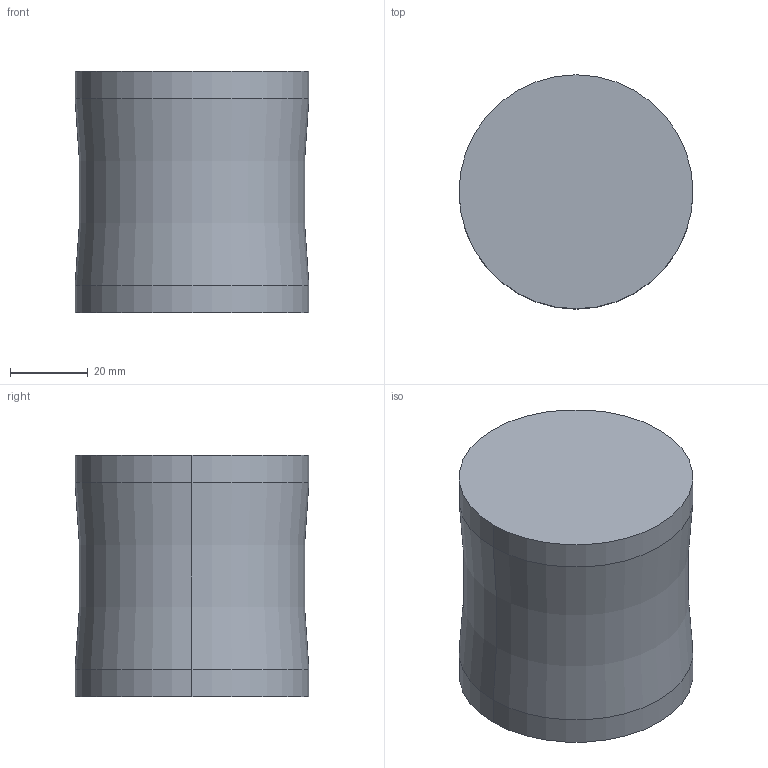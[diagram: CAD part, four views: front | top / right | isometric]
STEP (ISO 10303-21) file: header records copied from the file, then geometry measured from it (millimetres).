
FILE_DESCRIPTION(/* description */ (''),/* implementation_level */ '2;1');
FILE_NAME(/* name */ '3d_ex6060_06510_r00.stp',/* time_stamp */ '2011-01-10T14:15:38+09:00',/* author */ ('MISUMI'),/* organization */ (''),/* preprocessor_version */ 'ST-DEVELOPER v11',/* originating_system */ 'UGS - NX 5.0',/* authorisation */ '');
FILE_SCHEMA (('CONFIG_CONTROL_DESIGN'));
Length unit declared in the file: millimetre
Products named in the file (1): 3d_ex6060_06510_r00
Bounding box: 60 x 60 x 62 mm (x, y, z)
Volume: 167752.6 mm3; surface area: 17102.3 mm2
Topology: 1 solids, 1 shells, 8 faces, 14 edges, 8 vertices
Faces by surface type: cylinder 4, plane 2, torus 2
Entity records: 282 total; most frequent: DIRECTION 42, CARTESIAN_POINT 31, ORIENTED_EDGE 28, AXIS2_PLACEMENT_3D 19, EDGE_CURVE 14, CIRCLE 10, ADVANCED_FACE 8, FACE_OUTER_BOUND 8
